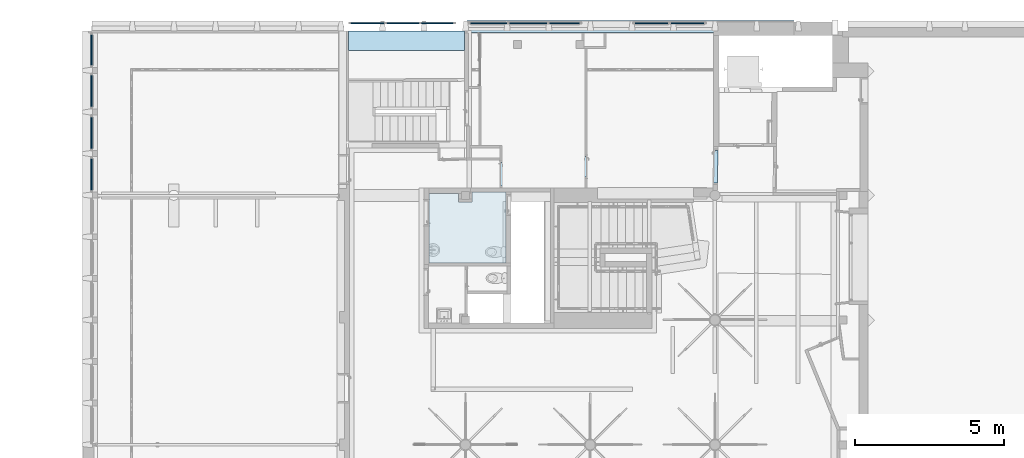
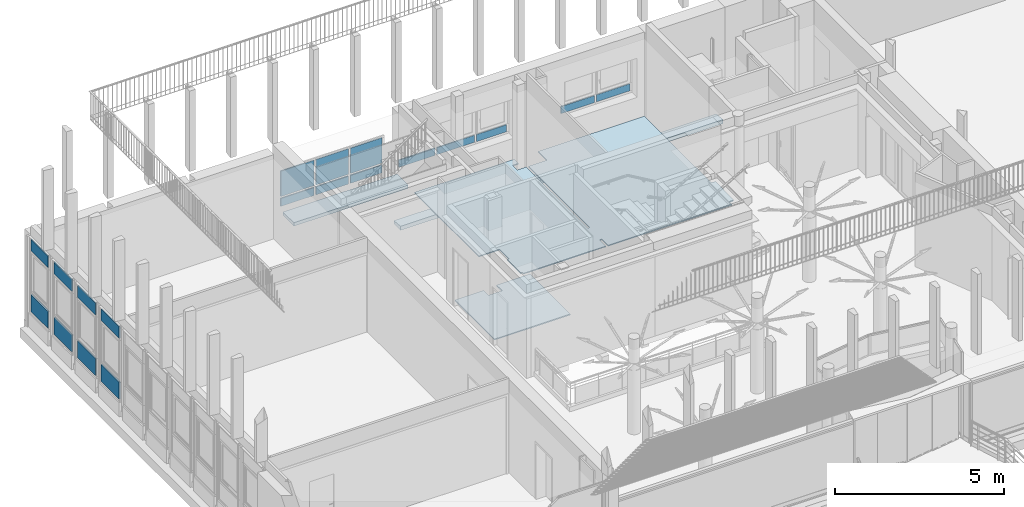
# One storey, part 17 of 65: 19 plates, 4 slabs, 7 elements without a shape of their own.
"""IFC4 building model written with IfcOpenShell, lengths in metres."""

from ifc_helpers import new_model, entity, si_unit, converted_unit, derived_unit, direction, frame, origin, place, context, subcontext, project, spatial, indexed_curve, outline, extrude, shape, source, transform, mapped, material, layer, layer_set, type_object, type_shapes, element, aggregate, save


model = new_model("IFC4")

# Units and contexts
model_context = context("Model", 3, precision=1e-05, world=origin(), true_north=direction((6.12303176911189e-17, 1.0)))
body_context = subcontext(model_context, "Body", "Model", "MODEL_VIEW")
footprint_context = subcontext(model_context, "FootPrint", "Model", "MODEL_VIEW")
ifc_project = project(units=[si_unit("LENGTHUNIT", "METRE"), si_unit("AREAUNIT", "SQUARE_METRE"), si_unit("VOLUMEUNIT", "CUBIC_METRE"), converted_unit("PLANEANGLEUNIT", "DEGREE", entity("IfcRatioMeasure", 0.0174532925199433), si_unit("PLANEANGLEUNIT", "RADIAN"), dimensions=[0, 0, 0, 0, 0, 0, 0]), si_unit("MASSUNIT", "GRAM", prefix="KILO"), derived_unit("MASSDENSITYUNIT", [(si_unit("MASSUNIT", "GRAM", prefix="KILO"), 1), (si_unit("LENGTHUNIT", "METRE"), -3)]), derived_unit("MOMENTOFINERTIAUNIT", [(si_unit("LENGTHUNIT", "METRE"), 4)]), si_unit("TIMEUNIT", "SECOND"), si_unit("FREQUENCYUNIT", "HERTZ"), si_unit("THERMODYNAMICTEMPERATUREUNIT", "DEGREE_CELSIUS"), derived_unit("THERMALTRANSMITTANCEUNIT", [(si_unit("MASSUNIT", "GRAM", prefix="KILO"), 1), (si_unit("THERMODYNAMICTEMPERATUREUNIT", "KELVIN"), -1), (si_unit("TIMEUNIT", "SECOND"), -3)]), derived_unit("VOLUMETRICFLOWRATEUNIT", [(si_unit("LENGTHUNIT", "METRE"), 3), (si_unit("TIMEUNIT", "SECOND"), -1)]), si_unit("ELECTRICCURRENTUNIT", "AMPERE"), si_unit("ELECTRICVOLTAGEUNIT", "VOLT"), si_unit("POWERUNIT", "WATT"), si_unit("FORCEUNIT", "NEWTON", prefix="KILO"), si_unit("ILLUMINANCEUNIT", "LUX"), si_unit("LUMINOUSFLUXUNIT", "LUMEN"), si_unit("LUMINOUSINTENSITYUNIT", "CANDELA"), derived_unit("USERDEFINED", [(si_unit("MASSUNIT", "GRAM", prefix="KILO"), -1), (si_unit("LENGTHUNIT", "METRE"), -2), (si_unit("TIMEUNIT", "SECOND"), 3), (si_unit("LUMINOUSFLUXUNIT", "LUMEN"), 1)]), derived_unit("LINEARVELOCITYUNIT", [(si_unit("LENGTHUNIT", "METRE"), 1), (si_unit("TIMEUNIT", "SECOND"), -1)]), si_unit("PRESSUREUNIT", "PASCAL"), derived_unit("USERDEFINED", [(si_unit("LENGTHUNIT", "METRE"), -2), (si_unit("MASSUNIT", "GRAM", prefix="KILO"), 1), (si_unit("TIMEUNIT", "SECOND"), -2)]), derived_unit("LINEARFORCEUNIT", [(si_unit("MASSUNIT", "GRAM", prefix="KILO"), 1), (si_unit("LENGTHUNIT", "METRE"), 1), (si_unit("TIMEUNIT", "SECOND"), -2), (si_unit("LENGTHUNIT", "METRE"), -1)]), derived_unit("PLANARFORCEUNIT", [(si_unit("MASSUNIT", "GRAM", prefix="KILO"), 1), (si_unit("LENGTHUNIT", "METRE"), 1), (si_unit("TIMEUNIT", "SECOND"), -2), (si_unit("LENGTHUNIT", "METRE"), -2)])], contexts=[model_context])

# Site, building, storey
site_placement = place(None, origin())
site = spatial("IfcSite", under=ifc_project, at=site_placement, Name="Default", CompositionType="ELEMENT")
building_placement = place(site_placement, origin())
building = spatial("IfcBuilding", under=site, at=building_placement, Name="HOTEL CONSULAIRE BOULOGNE SUR MER", CompositionType="ELEMENT")
storey_placement = place(building_placement, origin())
storey = spatial("IfcBuildingStorey", under=building, at=storey_placement, Name="Niveau 0", CompositionType="ELEMENT", Elevation=1.31981936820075e-13)

# Slabs
ifc_material_1 = material(Name="moquette bleu")
ifc_layer_1 = layer(ifc_material_1, 0.015, Name="moquette bleu")
ifc_material_2 = material(Name="Carrelage beige")
ifc_layer_2 = layer(ifc_material_2, 0.02, Name="Carrelage beige")
ifc_layer_set_1 = layer_set([ifc_layer_1, ifc_layer_2], Name="Sol:finition carrelage 20 mm + moquette 15")
slab_type_1 = type_object("IfcSlabType", Name="Sol:finition carrelage 20 mm + moquette 15", PredefinedType="FLOOR", material=ifc_layer_set_1)
slab_1_placement = place(storey_placement, origin())
element("IfcSlab", 1, at=slab_1_placement, inside=storey, type_object=slab_type_1, material=ifc_layer_set_1, Name="Sol:finition carrelage 20 mm + moquette 15", ObjectType="Sol:finition carrelage 20 mm + moquette 15", PredefinedType="FLOOR", context=body_context, shape_type="SweptSolid", body=[
    extrude(outline(indexed_curve([(-0.719699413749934, -3.62000778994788), (3.07782373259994, -3.62000778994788), (3.07782373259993, -0.216840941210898), (2.82722918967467, -0.216840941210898), (2.82722918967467, -0.418074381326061), (2.55722918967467, -0.418074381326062), (2.55722918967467, -0.108840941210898), (-1.07909414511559, -0.108840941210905), (-1.07909414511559, -0.0388409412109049), (2.55722918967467, -0.038840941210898), (2.55722918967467, 0.593925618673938), (3.07782373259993, 0.593925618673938), (3.07782373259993, 4.21778818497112), (-0.878156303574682, 4.21778818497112), (-0.881176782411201, 4.36480986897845), (-1.98094471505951, 4.34221574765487), (-1.97786369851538, 4.19224739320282), (-2.1470941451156, 4.18877064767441), (-2.14709414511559, -0.0388409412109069), (-1.77909414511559, -0.0388409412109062), (-1.77909414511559, -0.108840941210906), (-2.14709414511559, -0.108840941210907), (-2.14709414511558, -2.91181625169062), (-2.08309414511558, -2.91181625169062), (-2.08309414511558, -2.98181625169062), (-1.28309414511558, -2.98181625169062), (-1.28309414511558, -2.91181625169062), (-0.719699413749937, -2.91181625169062), (-0.719699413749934, -3.62000778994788)], self_intersect=False)), frame((2.91119208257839, -13.2281478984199, 0.0149999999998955), z_axis=(0.0, 0.0, -1.0), x_axis=(0.0, 1.0, 0.0)), (0.0, 0.0, 1.0), 0.035),
])
ifc_material_3 = material(Name="carrelage 30x30")
ifc_layer_3 = layer(ifc_material_3, 0.04, Name="carrelage 30x30")
ifc_layer_set_2 = layer_set([ifc_layer_3], Name="Sol:Finition carrelage 30x30")
slab_type_2 = type_object("IfcSlabType", Name="Sol:Finition carrelage 30x30", PredefinedType="FLOOR", material=ifc_layer_set_2)
slab_2_placement = place(storey_placement, origin())
element("IfcSlab", 2, at=slab_2_placement, inside=storey, type_object=slab_type_2, material=ifc_layer_set_2, Name="Sol:Finition carrelage 30x30", ObjectType="Sol:Finition carrelage 30x30", PredefinedType="FLOOR", context=body_context, shape_type="SweptSolid", body=[
    extrude(outline(indexed_curve([(-1.69055346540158, -1.25570597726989), (0.641764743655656, -1.25570597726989), (0.641764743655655, -0.271457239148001), (0.357023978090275, -0.271457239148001), (0.357023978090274, 0.191144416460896), (0.691764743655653, 0.191144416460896), (0.691764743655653, 1.33601879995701), (-1.69055346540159, 1.33601879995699), (-1.69055346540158, -1.25570597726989)], self_intersect=False)), frame((-1.19375060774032, -16.1970067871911, 0.0199999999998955), z_axis=(0.0, 0.0, -1.0), x_axis=(0.0, 1.0, 0.0)), (0.0, 0.0, 1.0), 0.04),
])

# Curtain wall, plate
curtain_wall_type = type_object("IfcCurtainWallType", Name="Mur-rideau:Simple panneau", PredefinedType="NOTDEFINED")
curtain_wall_1_placement = place(storey_placement, origin())
curtain_wall_1 = element("IfcCurtainWall", 3, at=curtain_wall_1_placement, inside=storey, type_object=curtain_wall_type, Name="Mur-rideau:Simple panneau", ObjectType="Mur-rideau:Simple panneau", PredefinedType="NOTDEFINED")
ifc_material_4 = material(Name="Verre", Category="Verre")
ifc_layer_4 = layer(ifc_material_4, 0.04, Name="Verre", Category="Verre")
ifc_layer_set_3 = layer_set([ifc_layer_4], Name="Mur-rideau:Simple panneau")
plate_type_1 = type_object("IfcPlateType", Name="Panneau système:Vitré", PredefinedType="CURTAIN_PANEL", material=ifc_layer_set_3)
shared_shape_1 = source(origin(), body_context, "Body", "SweptSolid", [
    extrude(outline(indexed_curve([(-0.02, -0.530000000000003), (0.02, -0.530000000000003), (0.02, 0.530000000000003), (-0.02, 0.530000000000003), (-0.02, -0.530000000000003)], self_intersect=False)), frame((0.530000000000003, 0.02, 0.0), z_axis=(0.0, 0.0, 1.0), x_axis=(0.0, 1.0, 0.0)), (0.0, 0.0, 1.0), 0.612),
])
shared_shape_2 = source(frame((-0.530000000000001, 0.00500000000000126, 0.0)), footprint_context, "FootPrint", "Curve2D", [
    entity("IfcIndexedPolyCurve", entity("IfcCartesianPointList2D", [[0.691544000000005, 0.00347600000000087], [0.691544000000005, 0.0434760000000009], [-0.368456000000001, 0.0434760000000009], [-0.368456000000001, 0.00347600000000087], [0.691544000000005, 0.00347600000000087]]), None, False),
])
type_shapes(plate_type_1, [shared_shape_1, shared_shape_2])
plate_1_placement = place(curtain_wall_1_placement, frame((-13.7950998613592, -15.4414499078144, 0.359999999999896), z_axis=(0.0, 0.0, 1.0), x_axis=(0.0, 1.0, 0.0)))
plate_1 = element("IfcPlate", 4, at=plate_1_placement, type_object=plate_type_1, material=ifc_layer_set_3, Name="Panneau système:Vitré", ObjectType="Panneau système:Vitré", PredefinedType="CURTAIN_PANEL", shapes=[
    shape(body_context, "Body", "MappedRepresentation", [mapped(shared_shape_1, transform((0.0, 0.0, 0.0), scale=1.0))]),
    shape(body_context, "Body", "MappedRepresentation", [mapped(shared_shape_2, transform((0.0, 0.0, 0.0), scale=1.0))]),
])

curtain_wall_2_placement = place(storey_placement, origin())
curtain_wall_2 = element("IfcCurtainWall", 5, at=curtain_wall_2_placement, inside=storey, type_object=curtain_wall_type, Name="Mur-rideau:Simple panneau", ObjectType="Mur-rideau:Simple panneau", PredefinedType="NOTDEFINED")
plate_2_placement = place(curtain_wall_2_placement, frame((-13.7950998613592, -14.0414499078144, 0.359999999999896), z_axis=(0.0, 0.0, 1.0), x_axis=(0.0, 1.0, 0.0)))
plate_2 = element("IfcPlate", 6, at=plate_2_placement, type_object=plate_type_1, material=ifc_layer_set_3, Name="Panneau système:Vitré", ObjectType="Panneau système:Vitré", PredefinedType="CURTAIN_PANEL", shapes=[
    shape(body_context, "Body", "MappedRepresentation", [mapped(shared_shape_1, transform((0.0, 0.0, 0.0), scale=1.0))]),
    shape(body_context, "Body", "MappedRepresentation", [mapped(shared_shape_2, transform((0.0, 0.0, 0.0), scale=1.0))]),
])

curtain_wall_3_placement = place(storey_placement, origin())
curtain_wall_3 = element("IfcCurtainWall", 7, at=curtain_wall_3_placement, inside=storey, type_object=curtain_wall_type, Name="Mur-rideau:Simple panneau", ObjectType="Mur-rideau:Simple panneau", PredefinedType="NOTDEFINED")
plate_3_placement = place(curtain_wall_3_placement, frame((-13.7950998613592, -12.6414499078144, 0.359999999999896), z_axis=(0.0, 0.0, 1.0), x_axis=(0.0, 1.0, 0.0)))
plate_3 = element("IfcPlate", 8, at=plate_3_placement, type_object=plate_type_1, material=ifc_layer_set_3, Name="Panneau système:Vitré", ObjectType="Panneau système:Vitré", PredefinedType="CURTAIN_PANEL", shapes=[
    shape(body_context, "Body", "MappedRepresentation", [mapped(shared_shape_1, transform((0.0, 0.0, 0.0), scale=1.0))]),
    shape(body_context, "Body", "MappedRepresentation", [mapped(shared_shape_2, transform((0.0, 0.0, 0.0), scale=1.0))]),
])

# Plate
plate_type_2 = type_object("IfcPlateType", Name="Panneau système:Vitré", PredefinedType="CURTAIN_PANEL", material=ifc_layer_set_3)
shared_shape_3 = source(origin(), body_context, "Body", "SweptSolid", [
    extrude(outline(indexed_curve([(-0.02, -0.530000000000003), (0.02, -0.530000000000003), (0.02, 0.530000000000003), (-0.02, 0.530000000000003), (-0.02, -0.530000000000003)], self_intersect=False)), frame((0.530000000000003, 0.02, 0.0), z_axis=(0.0, 0.0, 1.0), x_axis=(0.0, 1.0, 0.0)), (0.0, 0.0, 1.0), 0.423999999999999),
])
shared_shape_4 = source(frame((-0.530000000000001, 0.00500000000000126, 0.0)), footprint_context, "FootPrint", "Curve2D", [
    entity("IfcIndexedPolyCurve", entity("IfcCartesianPointList2D", [[0.691544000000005, 0.00347600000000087], [0.691544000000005, 0.0434760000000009], [-0.368456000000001, 0.0434760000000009], [-0.368456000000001, 0.00347600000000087], [0.691544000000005, 0.00347600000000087]]), None, False),
])
type_shapes(plate_type_2, [shared_shape_3, shared_shape_4])
plate_4_placement = place(curtain_wall_1_placement, frame((-13.7950998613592, -15.4414499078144, 2.5459999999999), z_axis=(0.0, 0.0, 1.0), x_axis=(0.0, 1.0, 0.0)))
plate_4 = element("IfcPlate", 9, at=plate_4_placement, type_object=plate_type_2, material=ifc_layer_set_3, Name="Panneau système:Vitré", ObjectType="Panneau système:Vitré", PredefinedType="CURTAIN_PANEL", shapes=[
    shape(body_context, "Body", "MappedRepresentation", [mapped(shared_shape_3, transform((0.0, 0.0, 0.0), scale=1.0))]),
    shape(body_context, "Body", "MappedRepresentation", [mapped(shared_shape_4, transform((0.0, 0.0, 0.0), scale=1.0))]),
])

aggregate(curtain_wall_1, [plate_1, plate_4])

plate_5_placement = place(curtain_wall_2_placement, frame((-13.7950998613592, -14.0414499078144, 2.5459999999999), z_axis=(0.0, 0.0, 1.0), x_axis=(0.0, 1.0, 0.0)))
plate_5 = element("IfcPlate", 10, at=plate_5_placement, type_object=plate_type_2, material=ifc_layer_set_3, Name="Panneau système:Vitré", ObjectType="Panneau système:Vitré", PredefinedType="CURTAIN_PANEL", shapes=[
    shape(body_context, "Body", "MappedRepresentation", [mapped(shared_shape_3, transform((0.0, 0.0, 0.0), scale=1.0))]),
    shape(body_context, "Body", "MappedRepresentation", [mapped(shared_shape_4, transform((0.0, 0.0, 0.0), scale=1.0))]),
])

aggregate(curtain_wall_2, [plate_2, plate_5])

plate_6_placement = place(curtain_wall_3_placement, frame((-13.7950998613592, -12.6414499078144, 2.5459999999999), z_axis=(0.0, 0.0, 1.0), x_axis=(0.0, 1.0, 0.0)))
plate_6 = element("IfcPlate", 11, at=plate_6_placement, type_object=plate_type_2, material=ifc_layer_set_3, Name="Panneau système:Vitré", ObjectType="Panneau système:Vitré", PredefinedType="CURTAIN_PANEL", shapes=[
    shape(body_context, "Body", "MappedRepresentation", [mapped(shared_shape_3, transform((0.0, 0.0, 0.0), scale=1.0))]),
    shape(body_context, "Body", "MappedRepresentation", [mapped(shared_shape_4, transform((0.0, 0.0, 0.0), scale=1.0))]),
])

aggregate(curtain_wall_3, [plate_3, plate_6])

# Curtain wall, plates
curtain_wall_4_placement = place(storey_placement, origin())
curtain_wall_4 = element("IfcCurtainWall", 12, at=curtain_wall_4_placement, inside=storey, type_object=curtain_wall_type, Name="Mur-rideau:Simple panneau", ObjectType="Mur-rideau:Simple panneau", PredefinedType="NOTDEFINED")
plate_type_3 = type_object("IfcPlateType", Name="Panneau système:Vitré", PredefinedType="CURTAIN_PANEL", material=ifc_layer_set_3)
shared_shape_5 = source(origin(), body_context, "Body", "SweptSolid", [
    extrude(outline(indexed_curve([(-0.02, -0.51056287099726), (0.02, -0.51056287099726), (0.02, 0.51056287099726), (-0.02, 0.51056287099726), (-0.02, -0.51056287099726)], self_intersect=False)), frame((0.51056287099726, 0.02, 0.0), z_axis=(0.0, 0.0, 1.0), x_axis=(0.0, 1.0, 0.0)), (0.0, 0.0, 1.0), 0.612),
])
shared_shape_6 = source(frame((-0.510562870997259, 0.00500000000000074, 0.0)), footprint_context, "FootPrint", "Curve2D", [
    entity("IfcIndexedPolyCurve", entity("IfcCartesianPointList2D", [[0.666182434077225, 0.00347600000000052], [0.666182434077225, 0.0434760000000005], [-0.354943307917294, 0.0434760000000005], [-0.354943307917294, 0.00347600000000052], [0.666182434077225, 0.00347600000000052]]), None, False),
])
type_shapes(plate_type_3, [shared_shape_5, shared_shape_6])
plate_7_placement = place(curtain_wall_4_placement, frame((-13.7950998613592, -11.2414499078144, 0.359999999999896), z_axis=(0.0, 0.0, 1.0), x_axis=(0.0, 1.0, 0.0)))
plate_7 = element("IfcPlate", 13, at=plate_7_placement, type_object=plate_type_3, material=ifc_layer_set_3, Name="Panneau système:Vitré", ObjectType="Panneau système:Vitré", PredefinedType="CURTAIN_PANEL", shapes=[
    shape(body_context, "Body", "MappedRepresentation", [mapped(shared_shape_5, transform((0.0, 0.0, 0.0), scale=1.0))]),
    shape(body_context, "Body", "MappedRepresentation", [mapped(shared_shape_6, transform((0.0, 0.0, 0.0), scale=1.0))]),
])
plate_type_4 = type_object("IfcPlateType", Name="Panneau système:Vitré", PredefinedType="CURTAIN_PANEL", material=ifc_layer_set_3)
shared_shape_7 = source(origin(), body_context, "Body", "SweptSolid", [
    extrude(outline(indexed_curve([(-0.02, -0.51056287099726), (0.02, -0.51056287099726), (0.02, 0.51056287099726), (-0.02, 0.51056287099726), (-0.02, -0.51056287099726)], self_intersect=False)), frame((0.51056287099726, 0.02, 0.0), z_axis=(0.0, 0.0, 1.0), x_axis=(0.0, 1.0, 0.0)), (0.0, 0.0, 1.0), 0.423999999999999),
])
shared_shape_8 = source(frame((-0.510562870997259, 0.00500000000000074, 0.0)), footprint_context, "FootPrint", "Curve2D", [
    entity("IfcIndexedPolyCurve", entity("IfcCartesianPointList2D", [[0.666182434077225, 0.00347600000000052], [0.666182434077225, 0.0434760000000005], [-0.354943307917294, 0.0434760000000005], [-0.354943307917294, 0.00347600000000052], [0.666182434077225, 0.00347600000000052]]), None, False),
])
type_shapes(plate_type_4, [shared_shape_7, shared_shape_8])
plate_8_placement = place(curtain_wall_4_placement, frame((-13.7950998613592, -11.2414499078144, 2.5459999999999), z_axis=(0.0, 0.0, 1.0), x_axis=(0.0, 1.0, 0.0)))
plate_8 = element("IfcPlate", 14, at=plate_8_placement, type_object=plate_type_4, material=ifc_layer_set_3, Name="Panneau système:Vitré", ObjectType="Panneau système:Vitré", PredefinedType="CURTAIN_PANEL", shapes=[
    shape(body_context, "Body", "MappedRepresentation", [mapped(shared_shape_7, transform((0.0, 0.0, 0.0), scale=1.0))]),
    shape(body_context, "Body", "MappedRepresentation", [mapped(shared_shape_8, transform((0.0, 0.0, 0.0), scale=1.0))]),
])
aggregate(curtain_wall_4, [plate_7, plate_8])

curtain_wall_5_placement = place(storey_placement, origin())
curtain_wall_5 = element("IfcCurtainWall", 15, at=curtain_wall_5_placement, inside=storey, type_object=curtain_wall_type, Name="Mur-rideau:Simple panneau", ObjectType="Mur-rideau:Simple panneau", PredefinedType="NOTDEFINED")
plate_type_5 = type_object("IfcPlateType", Name="Panneau système:Vitré", PredefinedType="CURTAIN_PANEL", material=ifc_layer_set_3)
shared_shape_9 = source(origin(), body_context, "Body", "SweptSolid", [
    extrude(outline(indexed_curve([(-0.02, -0.56836555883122), (0.02, -0.56836555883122), (0.02, 0.56836555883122), (-0.02, 0.56836555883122), (-0.02, -0.56836555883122)], self_intersect=False)), frame((0.56836555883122, 0.02, 0.0), z_axis=(0.0, 0.0, 1.0), x_axis=(0.0, 1.0, 0.0)), (0.0, 0.0, 1.0), 0.285),
])
shared_shape_10 = source(frame((-0.56836555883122, 0.00500000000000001, 0.0)), footprint_context, "FootPrint", "Curve2D", [
    entity("IfcIndexedPolyCurve", entity("IfcCartesianPointList2D", [[0.741603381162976, 0.003476], [0.741603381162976, 0.043476], [-0.395127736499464, 0.043476], [-0.395127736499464, 0.003476], [0.741603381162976, 0.003476]]), None, False),
])
type_shapes(plate_type_5, [shared_shape_9, shared_shape_10])
plate_9_placement = place(curtain_wall_5_placement, frame((-5.08977317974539, -9.84332416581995, 0.849733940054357)))
plate_9 = element("IfcPlate", 16, at=plate_9_placement, type_object=plate_type_5, material=ifc_layer_set_3, Name="Panneau système:Vitré", ObjectType="Panneau système:Vitré", PredefinedType="CURTAIN_PANEL", shapes=[
    shape(body_context, "Body", "MappedRepresentation", [mapped(shared_shape_9, transform((0.0, 0.0, 0.0), scale=1.0))]),
    shape(body_context, "Body", "MappedRepresentation", [mapped(shared_shape_10, transform((0.0, 0.0, 0.0), scale=1.0))]),
])
plate_type_6 = type_object("IfcPlateType", Name="Panneau système:Vitré", PredefinedType="CURTAIN_PANEL", material=ifc_layer_set_3)
shared_shape_11 = source(origin(), body_context, "Body", "SweptSolid", [
    extrude(outline(indexed_curve([(-0.02, -0.552446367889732), (0.02, -0.552446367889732), (0.02, 0.552446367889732), (-0.02, 0.552446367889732), (-0.02, -0.552446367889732)], self_intersect=False)), frame((0.552446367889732, 0.02, 0.0), z_axis=(0.0, 0.0, 1.0), x_axis=(0.0, 1.0, 0.0)), (0.0, 0.0, 1.0), 0.285),
])
shared_shape_12 = source(frame((-0.552446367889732, 0.00500000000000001, 0.0)), footprint_context, "FootPrint", "Curve2D", [
    entity("IfcIndexedPolyCurve", entity("IfcCartesianPointList2D", [[0.720832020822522, 0.003476], [0.720832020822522, 0.043476], [-0.384060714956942, 0.043476], [-0.384060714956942, 0.003476], [0.720832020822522, 0.003476]]), None, False),
])
type_shapes(plate_type_6, [shared_shape_11, shared_shape_12])
plate_10_placement = place(curtain_wall_5_placement, frame((-3.88304206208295, -9.84332416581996, 0.849733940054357)))
plate_10 = element("IfcPlate", 17, at=plate_10_placement, type_object=plate_type_6, material=ifc_layer_set_3, Name="Panneau système:Vitré", ObjectType="Panneau système:Vitré", PredefinedType="CURTAIN_PANEL", shapes=[
    shape(body_context, "Body", "MappedRepresentation", [mapped(shared_shape_11, transform((0.0, 0.0, 0.0), scale=1.0))]),
    shape(body_context, "Body", "MappedRepresentation", [mapped(shared_shape_12, transform((0.0, 0.0, 0.0), scale=1.0))]),
])
plate_type_7 = type_object("IfcPlateType", Name="Panneau système:Vitré", PredefinedType="CURTAIN_PANEL", material=ifc_layer_set_3)
shared_shape_13 = source(origin(), body_context, "Body", "SweptSolid", [
    extrude(outline(indexed_curve([(-0.02, -0.538164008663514), (0.02, -0.538164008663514), (0.02, 0.538164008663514), (-0.02, 0.538164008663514), (-0.02, -0.538164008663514)], self_intersect=False)), frame((0.538164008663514, 0.02, 0.0), z_axis=(0.0, 0.0, 1.0), x_axis=(0.0, 1.0, 0.0)), (0.0, 0.0, 1.0), 0.285),
])
shared_shape_14 = source(frame((-0.538164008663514, 0.00500000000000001, 0.0)), footprint_context, "FootPrint", "Curve2D", [
    entity("IfcIndexedPolyCurve", entity("IfcCartesianPointList2D", [[0.702196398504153, 0.003476], [0.702196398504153, 0.043476], [-0.374131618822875, 0.043476], [-0.374131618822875, 0.003476], [0.702196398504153, 0.003476]]), None, False),
])
type_shapes(plate_type_7, [shared_shape_13, shared_shape_14])
plate_11_placement = place(curtain_wall_5_placement, frame((-2.70814932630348, -9.84332416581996, 0.849733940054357)))
plate_11 = element("IfcPlate", 18, at=plate_11_placement, type_object=plate_type_7, material=ifc_layer_set_3, Name="Panneau système:Vitré", ObjectType="Panneau système:Vitré", PredefinedType="CURTAIN_PANEL", shapes=[
    shape(body_context, "Body", "MappedRepresentation", [mapped(shared_shape_13, transform((0.0, 0.0, 0.0), scale=1.0))]),
    shape(body_context, "Body", "MappedRepresentation", [mapped(shared_shape_14, transform((0.0, 0.0, 0.0), scale=1.0))]),
])
plate_type_8 = type_object("IfcPlateType", Name="Panneau système:Vitré", PredefinedType="CURTAIN_PANEL", material=ifc_layer_set_3)
shared_shape_15 = source(origin(), body_context, "Body", "SweptSolid", [
    extrude(outline(indexed_curve([(-0.02, -0.56836555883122), (0.02, -0.56836555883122), (0.02, 0.56836555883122), (-0.02, 0.56836555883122), (-0.02, -0.56836555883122)], self_intersect=False)), frame((0.56836555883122, 0.02, 0.0), z_axis=(0.0, 0.0, 1.0), x_axis=(0.0, 1.0, 0.0)), (0.0, 0.0, 1.0), 0.91626605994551),
])
shared_shape_16 = source(frame((-0.56836555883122, 0.00500000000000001, 0.0)), footprint_context, "FootPrint", "Curve2D", [
    entity("IfcIndexedPolyCurve", entity("IfcCartesianPointList2D", [[0.741603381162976, 0.003476], [0.741603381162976, 0.043476], [-0.395127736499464, 0.043476], [-0.395127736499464, 0.003476], [0.741603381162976, 0.003476]]), None, False),
])
type_shapes(plate_type_8, [shared_shape_15, shared_shape_16])
plate_12_placement = place(curtain_wall_5_placement, frame((-5.08977317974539, -9.84332416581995, 1.20473394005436)))
plate_12 = element("IfcPlate", 19, at=plate_12_placement, type_object=plate_type_8, material=ifc_layer_set_3, Name="Panneau système:Vitré", ObjectType="Panneau système:Vitré", PredefinedType="CURTAIN_PANEL", shapes=[
    shape(body_context, "Body", "MappedRepresentation", [mapped(shared_shape_15, transform((0.0, 0.0, 0.0), scale=1.0))]),
    shape(body_context, "Body", "MappedRepresentation", [mapped(shared_shape_16, transform((0.0, 0.0, 0.0), scale=1.0))]),
])
plate_type_9 = type_object("IfcPlateType", Name="Panneau système:Vitré", PredefinedType="CURTAIN_PANEL", material=ifc_layer_set_3)
shared_shape_17 = source(origin(), body_context, "Body", "SweptSolid", [
    extrude(outline(indexed_curve([(-0.02, -0.552446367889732), (0.02, -0.552446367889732), (0.02, 0.552446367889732), (-0.02, 0.552446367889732), (-0.02, -0.552446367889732)], self_intersect=False)), frame((0.552446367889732, 0.02, 0.0), z_axis=(0.0, 0.0, 1.0), x_axis=(0.0, 1.0, 0.0)), (0.0, 0.0, 1.0), 0.91626605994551),
])
shared_shape_18 = source(frame((-0.552446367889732, 0.00500000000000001, 0.0)), footprint_context, "FootPrint", "Curve2D", [
    entity("IfcIndexedPolyCurve", entity("IfcCartesianPointList2D", [[0.720832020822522, 0.003476], [0.720832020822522, 0.043476], [-0.384060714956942, 0.043476], [-0.384060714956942, 0.003476], [0.720832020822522, 0.003476]]), None, False),
])
type_shapes(plate_type_9, [shared_shape_17, shared_shape_18])
plate_13_placement = place(curtain_wall_5_placement, frame((-3.88304206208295, -9.84332416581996, 1.20473394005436)))
plate_13 = element("IfcPlate", 20, at=plate_13_placement, type_object=plate_type_9, material=ifc_layer_set_3, Name="Panneau système:Vitré", ObjectType="Panneau système:Vitré", PredefinedType="CURTAIN_PANEL", shapes=[
    shape(body_context, "Body", "MappedRepresentation", [mapped(shared_shape_17, transform((0.0, 0.0, 0.0), scale=1.0))]),
    shape(body_context, "Body", "MappedRepresentation", [mapped(shared_shape_18, transform((0.0, 0.0, 0.0), scale=1.0))]),
])
plate_type_10 = type_object("IfcPlateType", Name="Panneau système:Vitré", PredefinedType="CURTAIN_PANEL", material=ifc_layer_set_3)
shared_shape_19 = source(origin(), body_context, "Body", "SweptSolid", [
    extrude(outline(indexed_curve([(-0.02, -0.538164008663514), (0.02, -0.538164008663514), (0.02, 0.538164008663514), (-0.02, 0.538164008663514), (-0.02, -0.538164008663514)], self_intersect=False)), frame((0.538164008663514, 0.02, 0.0), z_axis=(0.0, 0.0, 1.0), x_axis=(0.0, 1.0, 0.0)), (0.0, 0.0, 1.0), 0.91626605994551),
])
shared_shape_20 = source(frame((-0.538164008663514, 0.00500000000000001, 0.0)), footprint_context, "FootPrint", "Curve2D", [
    entity("IfcIndexedPolyCurve", entity("IfcCartesianPointList2D", [[0.702196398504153, 0.003476], [0.702196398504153, 0.043476], [-0.374131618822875, 0.043476], [-0.374131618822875, 0.003476], [0.702196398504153, 0.003476]]), None, False),
])
type_shapes(plate_type_10, [shared_shape_19, shared_shape_20])
plate_14_placement = place(curtain_wall_5_placement, frame((-2.70814932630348, -9.84332416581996, 1.20473394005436)))
plate_14 = element("IfcPlate", 21, at=plate_14_placement, type_object=plate_type_10, material=ifc_layer_set_3, Name="Panneau système:Vitré", ObjectType="Panneau système:Vitré", PredefinedType="CURTAIN_PANEL", shapes=[
    shape(body_context, "Body", "MappedRepresentation", [mapped(shared_shape_19, transform((0.0, 0.0, 0.0), scale=1.0))]),
    shape(body_context, "Body", "MappedRepresentation", [mapped(shared_shape_20, transform((0.0, 0.0, 0.0), scale=1.0))]),
])
aggregate(curtain_wall_5, [plate_9, plate_10, plate_11, plate_12, plate_13, plate_14])

# Slab
ifc_material_5 = material(Name="Béton, coulé sur place", Category="Béton")
ifc_layer_5 = layer(ifc_material_5, 0.12, Name="Béton, coulé sur place", Category="Béton")
ifc_layer_set_4 = layer_set([ifc_layer_5], Name="Sol:béton 120")
slab_type_3 = type_object("IfcSlabType", Name="Sol:béton 120", PredefinedType="FLOOR", material=ifc_layer_set_4)
slab_3_placement = place(storey_placement, origin())
element("IfcSlab", 22, at=slab_3_placement, inside=storey, type_object=slab_type_3, material=ifc_layer_set_4, Name="Sol:béton 120", ObjectType="Sol:béton 120", PredefinedType="FLOOR", context=body_context, shape_type="SweptSolid", body=[
    extrude(outline(indexed_curve([(-0.324999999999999, -1.95017483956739), (0.325000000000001, -1.95017483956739), (0.325000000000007, 1.95017483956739), (-0.325000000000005, 1.95017483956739), (-0.324999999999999, -1.95017483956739)], self_intersect=False)), frame((-3.209598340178, -10.4096323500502, 0.825529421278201), z_axis=(0.0, 0.0, -1.0), x_axis=(0.0, 1.0, 0.0)), (0.0, 0.0, 1.0), 0.12),
])

# Curtain wall, plates
curtain_wall_6_placement = place(storey_placement, origin())
curtain_wall_6 = element("IfcCurtainWall", 23, at=curtain_wall_6_placement, inside=storey, type_object=curtain_wall_type, Name="Mur-rideau:Simple panneau", ObjectType="Mur-rideau:Simple panneau", PredefinedType="NOTDEFINED")
plate_type_11 = type_object("IfcPlateType", Name="Panneau système:Vitré", PredefinedType="CURTAIN_PANEL", material=ifc_layer_set_3)
shared_shape_21 = source(origin(), body_context, "Body", "SweptSolid", [
    extrude(outline(indexed_curve([(-0.02, -0.615322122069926), (0.02, -0.615322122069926), (0.02, 0.615322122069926), (-0.02, 0.615322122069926), (-0.02, -0.615322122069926)], self_intersect=False)), frame((0.615322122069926, 0.02, 0.0), z_axis=(0.0, 0.0, 1.0), x_axis=(0.0, 1.0, 0.0)), (0.0, 0.0, 1.0), 0.253),
])
shared_shape_22 = source(frame((-0.615322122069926, 0.00500000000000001, 0.0)), footprint_context, "FootPrint", "Curve2D", [
    entity("IfcIndexedPolyCurve", entity("IfcCartesianPointList2D", [[0.802872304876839, 0.003476], [0.802872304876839, 0.043476], [-0.427771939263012, 0.043476], [-0.427771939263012, 0.003476], [0.802872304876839, 0.003476]]), None, False),
])
type_shapes(plate_type_11, [shared_shape_21, shared_shape_22])
plate_15_placement = place(curtain_wall_6_placement, frame((-1.0594235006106, -9.84174446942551, 0.849733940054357)))
plate_15 = element("IfcPlate", 24, at=plate_15_placement, type_object=plate_type_11, material=ifc_layer_set_3, Name="Panneau système:Vitré", ObjectType="Panneau système:Vitré", PredefinedType="CURTAIN_PANEL", shapes=[
    shape(body_context, "Body", "MappedRepresentation", [mapped(shared_shape_21, transform((0.0, 0.0, 0.0), scale=1.0))]),
    shape(body_context, "Body", "MappedRepresentation", [mapped(shared_shape_22, transform((0.0, 0.0, 0.0), scale=1.0))]),
])
plate_type_12 = type_object("IfcPlateType", Name="Panneau système:Vitré", PredefinedType="CURTAIN_PANEL", material=ifc_layer_set_3)
shared_shape_23 = source(origin(), body_context, "Body", "SweptSolid", [
    extrude(outline(indexed_curve([(-0.0200000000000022, -0.638822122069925), (0.0199999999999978, -0.638822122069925), (0.0200000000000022, 0.638822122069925), (-0.0199999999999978, 0.638822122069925), (-0.0200000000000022, -0.638822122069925)], self_intersect=False)), frame((0.638822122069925, 0.02, 0.0), z_axis=(0.0, 0.0, 1.0), x_axis=(0.0, 1.0, 0.0)), (0.0, 0.0, 1.0), 0.253),
])
shared_shape_24 = source(frame((-0.638822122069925, 0.00500000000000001, 0.0)), footprint_context, "FootPrint", "Curve2D", [
    entity("IfcIndexedPolyCurve", entity("IfcCartesianPointList2D", [[0.833535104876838, 0.003476], [0.833535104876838, 0.043476], [-0.444109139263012, 0.043476], [-0.444109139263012, 0.003476], [0.833535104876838, 0.003476]]), None, False),
])
type_shapes(plate_type_12, [shared_shape_23, shared_shape_24])
plate_16_placement = place(curtain_wall_6_placement, frame((0.24122074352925, -9.84174446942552, 0.849733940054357)))
plate_16 = element("IfcPlate", 25, at=plate_16_placement, type_object=plate_type_12, material=ifc_layer_set_3, Name="Panneau système:Vitré", ObjectType="Panneau système:Vitré", PredefinedType="CURTAIN_PANEL", shapes=[
    shape(body_context, "Body", "MappedRepresentation", [mapped(shared_shape_23, transform((0.0, 0.0, 0.0), scale=1.0))]),
    shape(body_context, "Body", "MappedRepresentation", [mapped(shared_shape_24, transform((0.0, 0.0, 0.0), scale=1.0))]),
])
plate_type_13 = type_object("IfcPlateType", Name="Panneau système:Vitré", PredefinedType="CURTAIN_PANEL", material=ifc_layer_set_3)
shared_shape_25 = source(origin(), body_context, "Body", "SweptSolid", [
    extrude(outline(indexed_curve([(-0.02, -0.5115), (0.02, -0.5115), (0.02, 0.5115), (-0.02, 0.5115), (-0.02, -0.5115)], self_intersect=False)), frame((0.5115, 0.02, 0.0), z_axis=(0.0, 0.0, 1.0), x_axis=(0.0, 1.0, 0.0)), (0.0, 0.0, 1.0), 0.253),
])
shared_shape_26 = source(frame((-0.5115, 0.00500000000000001, 0.0)), footprint_context, "FootPrint", "Curve2D", [
    entity("IfcIndexedPolyCurve", entity("IfcCartesianPointList2D", [[0.6674052, 0.003476], [0.6674052, 0.043476], [-0.3555948, 0.043476], [-0.3555948, 0.003476], [0.6674052, 0.003476]]), None, False),
])
type_shapes(plate_type_13, [shared_shape_25, shared_shape_26])
plate_17_placement = place(curtain_wall_6_placement, frame((1.5888649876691, -9.84174446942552, 0.849733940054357)))
plate_17 = element("IfcPlate", 26, at=plate_17_placement, type_object=plate_type_13, material=ifc_layer_set_3, Name="Panneau système:Vitré", ObjectType="Panneau système:Vitré", PredefinedType="CURTAIN_PANEL", shapes=[
    shape(body_context, "Body", "MappedRepresentation", [mapped(shared_shape_25, transform((0.0, 0.0, 0.0), scale=1.0))]),
    shape(body_context, "Body", "MappedRepresentation", [mapped(shared_shape_26, transform((0.0, 0.0, 0.0), scale=1.0))]),
])
aggregate(curtain_wall_6, [plate_15, plate_16, plate_17])

curtain_wall_7_placement = place(storey_placement, origin())
curtain_wall_7 = element("IfcCurtainWall", 27, at=curtain_wall_7_placement, inside=storey, type_object=curtain_wall_type, Name="Mur-rideau:Simple panneau", ObjectType="Mur-rideau:Simple panneau", PredefinedType="NOTDEFINED")
plate_type_14 = type_object("IfcPlateType", Name="Panneau système:Vitré", PredefinedType="CURTAIN_PANEL", material=ifc_layer_set_3)
shared_shape_27 = source(origin(), body_context, "Body", "SweptSolid", [
    extrude(outline(indexed_curve([(-0.02, -0.56875), (0.02, -0.56875), (0.02, 0.56875), (-0.02, 0.56875), (-0.02, -0.56875)], self_intersect=False)), frame((0.56875, 0.02, 0.0), z_axis=(0.0, 0.0, 1.0), x_axis=(0.0, 1.0, 0.0)), (0.0, 0.0, 1.0), 0.253),
])
shared_shape_28 = source(frame((-0.568750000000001, 0.00500000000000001, 0.0)), footprint_context, "FootPrint", "Curve2D", [
    entity("IfcIndexedPolyCurve", entity("IfcCartesianPointList2D", [[0.742105, 0.003476], [0.742105, 0.043476], [-0.395395, 0.043476], [-0.395395, 0.003476], [0.742105, 0.003476]]), None, False),
])
type_shapes(plate_type_14, [shared_shape_27, shared_shape_28])
plate_18_placement = place(curtain_wall_7_placement, frame((4.4685764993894, -9.84174446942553, 0.849733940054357)))
plate_18 = element("IfcPlate", 28, at=plate_18_placement, type_object=plate_type_14, material=ifc_layer_set_3, Name="Panneau système:Vitré", ObjectType="Panneau système:Vitré", PredefinedType="CURTAIN_PANEL", shapes=[
    shape(body_context, "Body", "MappedRepresentation", [mapped(shared_shape_27, transform((0.0, 0.0, 0.0), scale=1.0))]),
    shape(body_context, "Body", "MappedRepresentation", [mapped(shared_shape_28, transform((0.0, 0.0, 0.0), scale=1.0))]),
])
plate_19_placement = place(curtain_wall_7_placement, frame((5.6760764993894, -9.84174446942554, 0.849733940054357)))
plate_19 = element("IfcPlate", 29, at=plate_19_placement, type_object=plate_type_14, material=ifc_layer_set_3, Name="Panneau système:Vitré", ObjectType="Panneau système:Vitré", PredefinedType="CURTAIN_PANEL", shapes=[
    shape(body_context, "Body", "MappedRepresentation", [mapped(shared_shape_27, transform((0.0, 0.0, 0.0), scale=1.0))]),
    shape(body_context, "Body", "MappedRepresentation", [mapped(shared_shape_28, transform((0.0, 0.0, 0.0), scale=1.0))]),
])
aggregate(curtain_wall_7, [plate_18, plate_19])

# Slab
ifc_material_6 = material(Name="Plâtre", Category="Plâtre")
slab_type_4 = type_object("IfcSlabType", Name="Sols 1:Sols 1", PredefinedType="FLOOR", material=ifc_material_6)
slab_4_placement = place(storey_placement, frame((-1.17098066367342, -10.13432416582, -1.20643668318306)))
element("IfcSlab", 30, at=slab_4_placement, inside=storey, type_object=slab_type_4, Name="Sols 1:Sols 1", ObjectType="Sols 1:Sols 1", PredefinedType="FLOOR", context=body_context, shape_type="SweptSolid", body=[
    extrude(outline(indexed_curve([(-0.103739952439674, -0.197473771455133), (0.0411605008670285, -0.197473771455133), (0.0411605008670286, -0.14778195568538), (0.0411605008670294, 0.12252622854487), (0.0411605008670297, 0.210101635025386), (-0.0609020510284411, 0.210101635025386), (-0.103739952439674, -0.197473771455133)], self_intersect=False)), frame((0.0, 0.197473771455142, 0.0411605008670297), z_axis=(1.0, 0.0, 0.0), x_axis=(0.0, 0.0, -1.0)), (0.0, 0.0, 1.0), 10.9968094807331),
])

save(model, "model.ifc")
